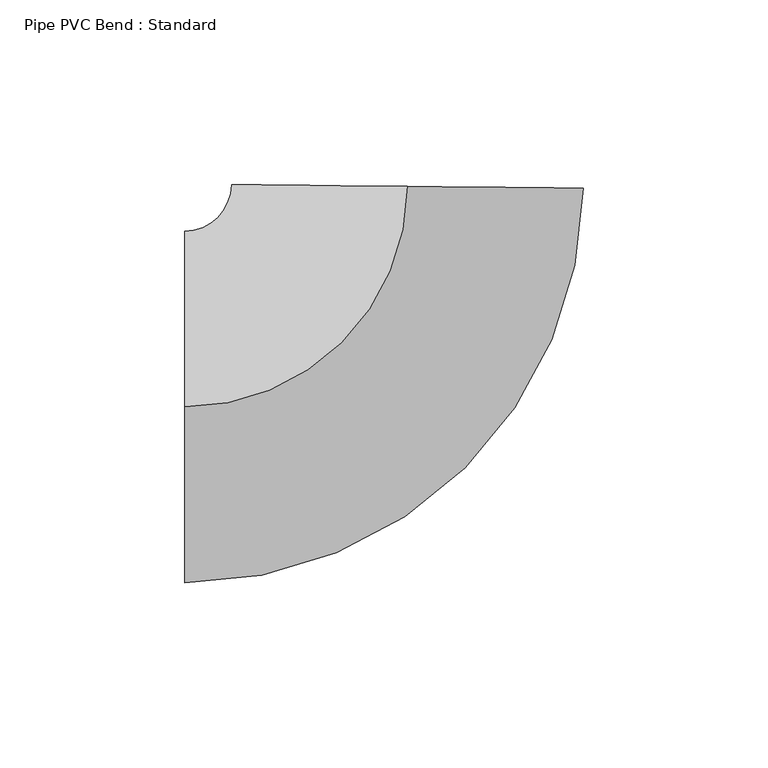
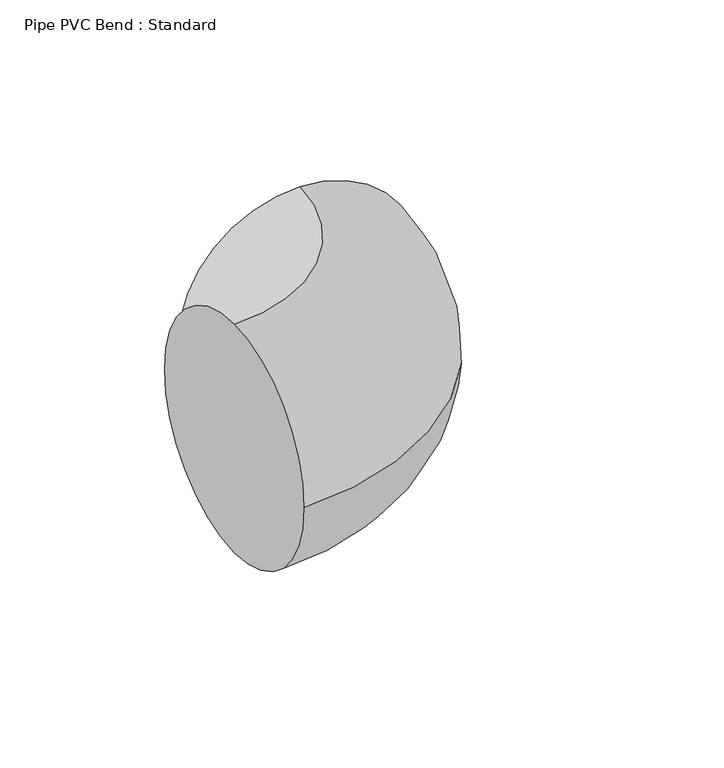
"""IFC4 building model written with IfcOpenShell, lengths in millimetres: pipe fitting geometry, Pipe PVC Bend : Standard."""

from ifc_helpers import new_model, si_unit, point, frame, origin, place, context, project, spatial, circle_curve, ellipse_curve, trimmed, source, transform, mapped, element, save
from ifc_brep_helpers import plane_surface, revolved_surface, advanced_brep


def pipe_pvc_bend_standard_ed346d0c(model_context):
    return source(origin(), model_context, "Body", "AdvancedBrep", [
        advanced_brep(
        [(-59.7114201, 0.0, 47.625), (-59.7114201, 47.625, 0.0), (-59.7114201, 0.0, -47.625), (-59.7114201, -47.625, 0.0), (0.6104275, 59.7082999, 47.625), (48.2329388, 59.2214313, 0.0), (0.6104275, 59.7082999, -47.625), (-47.0120838, 60.1951684, 0.0)],
        [
            (0, 1, circle_curve(frame((-59.7114201, 0.0, 0.0), z_axis=(-1.0, 0.0, 0.0), x_axis=(0.0, 1.0, 0.0)), 47.625)),
            (1, 2, circle_curve(frame((-59.7114201, 0.0, 0.0), z_axis=(-1.0, 0.0, 0.0), x_axis=(0.0, 1.0, 0.0)), 47.625)),
            (2, 3, circle_curve(frame((-59.7114201, 0.0, 0.0), z_axis=(-1.0, 0.0, 0.0), x_axis=(0.0, 1.0, 0.0)), 47.625)),
            (3, 0, circle_curve(frame((-59.7114201, 0.0, 0.0), z_axis=(-1.0, 0.0, 0.0), x_axis=(0.0, 1.0, 0.0)), 47.625)),
            (4, 5, circle_curve(frame((0.6104275, 59.7082999, 0.0), z_axis=(0.01022296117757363, 0.9999477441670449, 0.0), x_axis=(-0.9999477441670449, 0.01022296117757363, 0.0)), 47.625)),
            (5, 6, circle_curve(frame((0.6104275, 59.7082999, 0.0), z_axis=(0.01022296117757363, 0.9999477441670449, 0.0), x_axis=(-0.9999477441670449, 0.01022296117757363, 0.0)), 47.625)),
            (6, 7, circle_curve(frame((0.6104275, 59.7082999, 0.0), z_axis=(0.01022296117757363, 0.9999477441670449, 0.0), x_axis=(-0.9999477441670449, 0.01022296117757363, 0.0)), 47.625)),
            (7, 4, circle_curve(frame((0.6104275, 59.7082999, 0.0), z_axis=(0.01022296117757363, 0.9999477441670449, 0.0), x_axis=(-0.9999477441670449, 0.01022296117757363, 0.0)), 47.625)),
            (7, 1, circle_curve(frame((-59.7114201, 60.325, 0.0), z_axis=(0.0, 0.0, -1.0), x_axis=(0.0, -1.0, 0.0)), 12.7)),
            (0, 4, circle_curve(frame((-59.7114201, 60.325, 47.625), z_axis=(0.0, 0.0, 1.0), x_axis=(0.0, -1.0, 0.0)), 60.325)),
            (6, 2, circle_curve(frame((-59.7114201, 60.325, -47.625), z_axis=(0.0, 0.0, -1.0), x_axis=(0.0, -1.0, 0.0)), 60.325)),
            (5, 3, circle_curve(frame((-59.7114201, 60.325, 0.0), z_axis=(0.0, 0.0, -1.0), x_axis=(0.0, -1.0, 0.0)), 107.95)),
        ],
        [
            plane_surface(frame((-59.7114201, 0.0, 0.0), z_axis=(-1.0, 0.0, 0.0), x_axis=(0.0, 0.0, 1.0))),
            plane_surface(frame((0.6104275, 59.7082999, 0.0), z_axis=(0.010222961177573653, 0.9999477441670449, 0.0), x_axis=(0.0, 0.0, 1.0))),
            revolved_surface(trimmed(ellipse_curve(frame((-59.7114201, 0.0, 0.0), z_axis=(-1.0, 0.0, 0.0), x_axis=(0.0, 1.0, 0.0)), 47.625, 47.625), [point((-59.7114201, 0.0, 47.625))], [point((-59.7114201, 47.625, 0.0))], True, "CARTESIAN"), (-59.7114201, 60.325, 0.0), (0.0, 0.0, 1.0)),
            revolved_surface(trimmed(ellipse_curve(frame((-59.7114201, 0.0, 0.0), z_axis=(-1.0, 0.0, 0.0), x_axis=(0.0, 1.0, 0.0)), 47.625, 47.625), [point((-59.7114201, 47.625, 0.0))], [point((-59.7114201, 0.0, -47.625))], True, "CARTESIAN"), (-59.7114201, 60.325, 0.0), (0.0, 0.0, 1.0)),
            revolved_surface(trimmed(ellipse_curve(frame((-59.7114201, 0.0, 0.0), z_axis=(-1.0, 0.0, 0.0), x_axis=(0.0, 1.0, 0.0)), 47.625, 47.625), [point((-59.7114201, 0.0, -47.625))], [point((-59.7114201, -47.625, 0.0))], True, "CARTESIAN"), (-59.7114201, 60.325, 0.0), (0.0, 0.0, 1.0)),
            revolved_surface(trimmed(ellipse_curve(frame((-59.7114201, 0.0, 0.0), z_axis=(-1.0, 0.0, 0.0), x_axis=(0.0, 1.0, 0.0)), 47.625, 47.625), [point((-59.7114201, -47.625, 0.0))], [point((-59.7114201, 0.0, 47.625))], True, "CARTESIAN"), (-59.7114201, 60.325, 0.0), (0.0, 0.0, 1.0)),
        ],
        [
            (0, [[1, 2, 3, 4]]),
            (1, [[5, 6, 7, 8]]),
            (2, [[9, -1, 10, -8]]),
            (3, [[11, -2, -9, -7]]),
            (4, [[12, -3, -11, -6]]),
            (5, [[-10, -4, -12, -5]]),
        ],
    ),
        advanced_brep(
        [(-59.7114201, 0.0, 47.625), (-59.7114201, 47.625, 0.0), (-59.7114201, 0.0, -47.625), (-59.7114201, -47.625, 0.0), (0.6104275, 59.7082999, 47.625), (48.2329388, 59.2214313, 0.0), (0.6104275, 59.7082999, -47.625), (-47.0120838, 60.1951684, 0.0)],
        [
            (0, 1, circle_curve(frame((-59.7114201, 0.0, 0.0), z_axis=(-1.0, 0.0, 0.0), x_axis=(0.0, 1.0, 0.0)), 47.625)),
            (1, 2, circle_curve(frame((-59.7114201, 0.0, 0.0), z_axis=(-1.0, 0.0, 0.0), x_axis=(0.0, 1.0, 0.0)), 47.625)),
            (2, 3, circle_curve(frame((-59.7114201, 0.0, 0.0), z_axis=(-1.0, 0.0, 0.0), x_axis=(0.0, 1.0, 0.0)), 47.625)),
            (3, 0, circle_curve(frame((-59.7114201, 0.0, 0.0), z_axis=(-1.0, 0.0, 0.0), x_axis=(0.0, 1.0, 0.0)), 47.625)),
            (4, 5, circle_curve(frame((0.6104275, 59.7082999, 0.0), z_axis=(0.01022296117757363, 0.9999477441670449, 0.0), x_axis=(-0.9999477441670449, 0.01022296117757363, 0.0)), 47.625)),
            (5, 6, circle_curve(frame((0.6104275, 59.7082999, 0.0), z_axis=(0.01022296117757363, 0.9999477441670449, 0.0), x_axis=(-0.9999477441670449, 0.01022296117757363, 0.0)), 47.625)),
            (6, 7, circle_curve(frame((0.6104275, 59.7082999, 0.0), z_axis=(0.01022296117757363, 0.9999477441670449, 0.0), x_axis=(-0.9999477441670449, 0.01022296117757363, 0.0)), 47.625)),
            (7, 4, circle_curve(frame((0.6104275, 59.7082999, 0.0), z_axis=(0.01022296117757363, 0.9999477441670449, 0.0), x_axis=(-0.9999477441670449, 0.01022296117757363, 0.0)), 47.625)),
            (7, 1, circle_curve(frame((-59.7114201, 60.325, 0.0), z_axis=(0.0, 0.0, -1.0), x_axis=(0.0, -1.0, 0.0)), 12.7)),
            (0, 4, circle_curve(frame((-59.7114201, 60.325, 47.625), z_axis=(0.0, 0.0, 1.0), x_axis=(0.0, -1.0, 0.0)), 60.325)),
            (6, 2, circle_curve(frame((-59.7114201, 60.325, -47.625), z_axis=(0.0, 0.0, -1.0), x_axis=(0.0, -1.0, 0.0)), 60.325)),
            (5, 3, circle_curve(frame((-59.7114201, 60.325, 0.0), z_axis=(0.0, 0.0, -1.0), x_axis=(0.0, -1.0, 0.0)), 107.95)),
        ],
        [
            plane_surface(frame((-59.7114201, 0.0, 0.0), z_axis=(-1.0, 0.0, 0.0), x_axis=(0.0, 0.0, 1.0))),
            plane_surface(frame((0.6104275, 59.7082999, 0.0), z_axis=(0.010222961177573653, 0.9999477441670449, 0.0), x_axis=(0.0, 0.0, 1.0))),
            revolved_surface(trimmed(ellipse_curve(frame((-59.7114201, 0.0, 0.0), z_axis=(-1.0, 0.0, 0.0), x_axis=(0.0, 1.0, 0.0)), 47.625, 47.625), [point((-59.7114201, 0.0, 47.625))], [point((-59.7114201, 47.625, 0.0))], True, "CARTESIAN"), (-59.7114201, 60.325, 0.0), (0.0, 0.0, 1.0)),
            revolved_surface(trimmed(ellipse_curve(frame((-59.7114201, 0.0, 0.0), z_axis=(-1.0, 0.0, 0.0), x_axis=(0.0, 1.0, 0.0)), 47.625, 47.625), [point((-59.7114201, 47.625, 0.0))], [point((-59.7114201, 0.0, -47.625))], True, "CARTESIAN"), (-59.7114201, 60.325, 0.0), (0.0, 0.0, 1.0)),
            revolved_surface(trimmed(ellipse_curve(frame((-59.7114201, 0.0, 0.0), z_axis=(-1.0, 0.0, 0.0), x_axis=(0.0, 1.0, 0.0)), 47.625, 47.625), [point((-59.7114201, 0.0, -47.625))], [point((-59.7114201, -47.625, 0.0))], True, "CARTESIAN"), (-59.7114201, 60.325, 0.0), (0.0, 0.0, 1.0)),
            revolved_surface(trimmed(ellipse_curve(frame((-59.7114201, 0.0, 0.0), z_axis=(-1.0, 0.0, 0.0), x_axis=(0.0, 1.0, 0.0)), 47.625, 47.625), [point((-59.7114201, -47.625, 0.0))], [point((-59.7114201, 0.0, 47.625))], True, "CARTESIAN"), (-59.7114201, 60.325, 0.0), (0.0, 0.0, 1.0)),
        ],
        [
            (0, [[1, 2, 3, 4]]),
            (1, [[5, 6, 7, 8]]),
            (2, [[9, -1, 10, -8]]),
            (3, [[11, -2, -9, -7]]),
            (4, [[12, -3, -11, -6]]),
            (5, [[-10, -4, -12, -5]]),
        ],
    ),
    ])


if __name__ == "__main__":
    model = new_model("IFC4")
    model_context = context("Model", 3, world=origin())
    ifc_project = project(units=[si_unit("LENGTHUNIT", "METRE", prefix="MILLI")], contexts=[model_context])
    site = spatial("IfcSite", under=ifc_project)
    building = spatial("IfcBuilding", under=site)
    placement = place(None, origin())
    pipe_pvc_bend_standard_shape = pipe_pvc_bend_standard_ed346d0c(model_context)
    element("IfcPipeFitting", 1, ObjectType="Pipe PVC Bend : Standard", at=placement, inside=building, context=model_context, shape_type="MappedRepresentation", body=[
        mapped(pipe_pvc_bend_standard_shape, transform((0.0, 0.0, 0.0), x_axis=(1.0, 0.0, 0.0), y_axis=(0.0, 1.0, 0.0), z_axis=(0.0, 0.0, 1.0))),
    ])
    save(model, "model.ifc")
